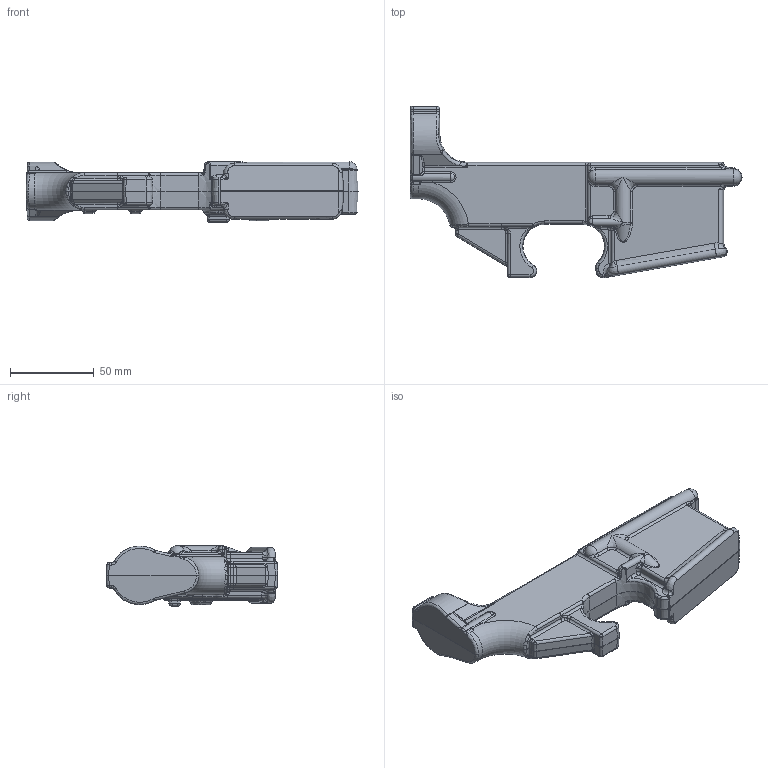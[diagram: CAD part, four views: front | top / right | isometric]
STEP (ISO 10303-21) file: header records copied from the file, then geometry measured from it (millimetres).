
FILE_DESCRIPTION(/* description */ (''),/* implementation_level */ '2;1');
FILE_NAME(/* name */ '\\alfa-college.intern\dfsroot$\Transport\boll01\Desktop\J62510 LOWER RECEIVER FORGING.stp',/* time_stamp */ '2015-03-06T12:36:21+01:00',/* author */ ('boll01'),/* organization */ (''),/* preprocessor_version */ 'ST-DEVELOPER v15.6',/* originating_system */ 'Autodesk Inventor 2015',/* authorisation */ '');
FILE_SCHEMA (('AUTOMOTIVE_DESIGN { 1 0 10303 214 3 1 1 }'));
Length unit declared in the file: millimetre
Products named in the file (1): J62510 LOWER RECEIVER FORGING
Bounding box: 198.65 x 102.69 x 36.15 mm (x, y, z)
Volume: 251929 mm3; surface area: 35402.5 mm2
Topology: 1 solids, 1 shells, 573 faces, 1330 edges, 736 vertices
Faces by surface type: bspline 245, cylinder 145, plane 70, torus 54, sphere 31, cone 28
Entity records: 23394 total; most frequent: CARTESIAN_POINT 11722, ORIENTED_EDGE 2606, DIRECTION 2183, EDGE_CURVE 1303, AXIS2_PLACEMENT_3D 943, VERTEX_POINT 735, EDGE_LOOP 576, FACE_OUTER_BOUND 573
